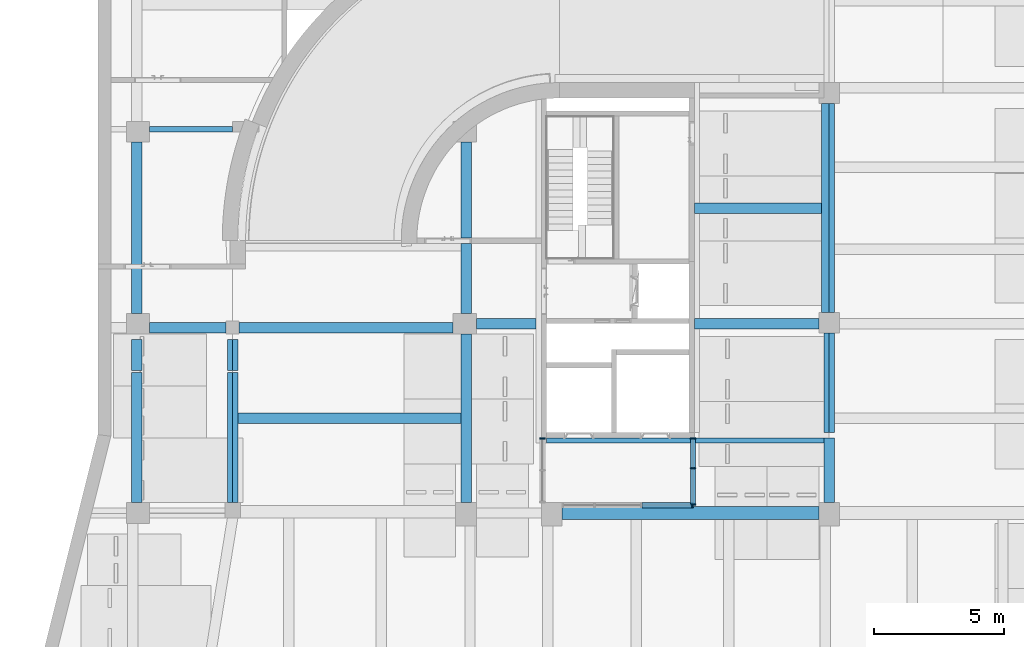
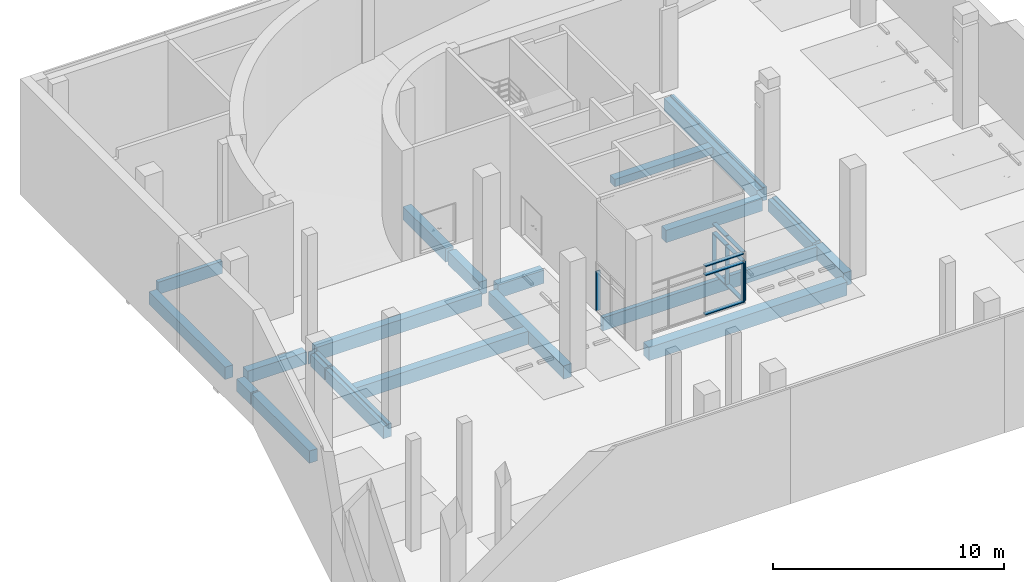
# One storey, part 3 of 29: 16 beams, 14 members, 3 elements without a shape of their own.
"""IFC2X3 building model written with IfcOpenShell, lengths in millimetres."""

from ifc_helpers import new_model, entity, si_unit, converted_unit, derived_unit, direction, frame, frame_2d, origin, origin_2d_with_axis, place, context, subcontext, project, spatial, polyline, rectangle, outline, extrude, source, transform, mapped, material, material_list, type_object, type_shapes, element, aggregate, save


model = new_model("IFC2X3")

# Units and contexts
model_context = context("Model", 3, precision=0.01, world=origin(), true_north=direction((6.123031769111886e-17, 1.0)))
body_context = subcontext(model_context, "Body", "Model", "MODEL_VIEW")
ifc_project = project(units=[si_unit("LENGTHUNIT", "METRE", prefix="MILLI"), si_unit("AREAUNIT", "SQUARE_METRE"), si_unit("VOLUMEUNIT", "CUBIC_METRE"), converted_unit("PLANEANGLEUNIT", "DEGREE", entity("IfcRatioMeasure", 0.017453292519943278), si_unit("PLANEANGLEUNIT", "RADIAN"), dimensions=[0, 0, 0, 0, 0, 0, 0]), si_unit("MASSUNIT", "GRAM", prefix="KILO"), derived_unit("MASSDENSITYUNIT", [(si_unit("MASSUNIT", "GRAM", prefix="KILO"), 1), (si_unit("LENGTHUNIT", "METRE"), -3)]), derived_unit("MOMENTOFINERTIAUNIT", [(si_unit("LENGTHUNIT", "METRE"), 4)]), si_unit("TIMEUNIT", "SECOND"), si_unit("FREQUENCYUNIT", "HERTZ"), si_unit("THERMODYNAMICTEMPERATUREUNIT", "DEGREE_CELSIUS"), derived_unit("THERMALTRANSMITTANCEUNIT", [(si_unit("MASSUNIT", "GRAM", prefix="KILO"), 1), (si_unit("THERMODYNAMICTEMPERATUREUNIT", "KELVIN"), -1), (si_unit("TIMEUNIT", "SECOND"), -3)]), derived_unit("VOLUMETRICFLOWRATEUNIT", [(si_unit("LENGTHUNIT", "METRE"), 3), (si_unit("TIMEUNIT", "SECOND"), -1)]), derived_unit("MASSFLOWRATEUNIT", [(si_unit("MASSUNIT", "GRAM", prefix="KILO"), 1), (si_unit("TIMEUNIT", "SECOND"), -1)]), derived_unit("ROTATIONALFREQUENCYUNIT", [(si_unit("TIMEUNIT", "SECOND"), -1)]), si_unit("ELECTRICCURRENTUNIT", "AMPERE"), si_unit("ELECTRICVOLTAGEUNIT", "VOLT"), si_unit("POWERUNIT", "WATT"), si_unit("FORCEUNIT", "NEWTON", prefix="KILO"), si_unit("ILLUMINANCEUNIT", "LUX"), si_unit("LUMINOUSFLUXUNIT", "LUMEN"), si_unit("LUMINOUSINTENSITYUNIT", "CANDELA"), derived_unit("USERDEFINED", [(si_unit("MASSUNIT", "GRAM", prefix="KILO"), -1), (si_unit("LENGTHUNIT", "METRE"), -2), (si_unit("TIMEUNIT", "SECOND"), 3), (si_unit("LUMINOUSFLUXUNIT", "LUMEN"), 1)]), derived_unit("SOUNDPOWERUNIT", [(si_unit("MASSUNIT", "GRAM", prefix="KILO"), 1), (si_unit("LENGTHUNIT", "METRE"), 2), (si_unit("TIMEUNIT", "SECOND"), -3)]), derived_unit("SOUNDPRESSUREUNIT", [(si_unit("MASSUNIT", "GRAM", prefix="KILO"), 1), (si_unit("LENGTHUNIT", "METRE"), -1), (si_unit("TIMEUNIT", "SECOND"), -2)]), derived_unit("LINEARVELOCITYUNIT", [(si_unit("LENGTHUNIT", "METRE"), 1), (si_unit("TIMEUNIT", "SECOND"), -1)]), si_unit("PRESSUREUNIT", "PASCAL"), derived_unit("USERDEFINED", [(si_unit("LENGTHUNIT", "METRE"), -2), (si_unit("MASSUNIT", "GRAM", prefix="KILO"), 1), (si_unit("TIMEUNIT", "SECOND"), -2)]), derived_unit("LINEARFORCEUNIT", [(si_unit("MASSUNIT", "GRAM", prefix="KILO"), 1), (si_unit("LENGTHUNIT", "METRE"), 1), (si_unit("TIMEUNIT", "SECOND"), -2), (si_unit("LENGTHUNIT", "METRE"), -1)]), derived_unit("PLANARFORCEUNIT", [(si_unit("MASSUNIT", "GRAM", prefix="KILO"), 1), (si_unit("LENGTHUNIT", "METRE"), 1), (si_unit("TIMEUNIT", "SECOND"), -2), (si_unit("LENGTHUNIT", "METRE"), -2)])], contexts=[model_context])

# Site, building, storey
site_placement = place(None, frame((-14167.972527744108, -657.2125860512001, 0.0)))
site = spatial("IfcSite", under=ifc_project, at=site_placement, Name="Default", CompositionType="ELEMENT")
building_placement = place(site_placement, origin())
building = spatial("IfcBuilding", under=site, at=building_placement, Name="Sample Building", CompositionType="ELEMENT")
storey_placement = place(building_placement, frame((0.0, 0.0, -6100.0)))
storey = spatial("IfcBuildingStorey", under=building, at=storey_placement, Name="지하1층", CompositionType="ELEMENT", Elevation=-6099.999999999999)

# Curtain wall, members
curtain_wall_type = type_object("IfcCurtainWallType", Name="커튼월:CW112-스테인리스 스틸 커튼월", PredefinedType="NOTDEFINED")
curtain_wall_1_placement = place(storey_placement, frame((0.0, 0.0, 6100.0)))
curtain_wall_1 = element("IfcCurtainWall", 1, at=curtain_wall_1_placement, inside=storey, type_object=curtain_wall_type, Name="커튼월:CW112-스테인리스 스틸 커튼월", ObjectType="커튼월:CW112-스테인리스 스틸 커튼월")
ifc_material_1 = material(Name="<Unnamed>")
member_type_1 = type_object("IfcMemberType", Name="직사각형 멀리언:CW200-직사각형 멀리언 50x200mm", PredefinedType="MULLION", material=ifc_material_1)
shared_shape_1 = source(origin(), body_context, "Body", "SweptSolid", [
    extrude(rectangle(XDim=200.0, YDim=50.0, at=origin_2d_with_axis()), frame((0.0, 0.0, -2100.0), z_axis=(0.0, 0.0, 1.0), x_axis=(0.0, -1.0, 0.0)), (0.0, 0.0, 1.0), 2100.0),
])
type_shapes(member_type_1, [shared_shape_1])
member_1_placement = place(curtain_wall_1_placement, frame((35917.97249113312, 14386.618274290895, -5900.0), z_axis=(0.0, 0.0, -1.0), x_axis=(0.0, -1.0, 0.0)))
member_1 = element("IfcMember", 2, at=member_1_placement, type_object=member_type_1, material=ifc_material_1, Name="직사각형 멀리언:CW200-직사각형 멀리언 50x200mm", ObjectType="직사각형 멀리언:CW200-직사각형 멀리언 50x200mm", context=body_context, shape_type="MappedRepresentation", body=[
    mapped(shared_shape_1, transform((0.0, 0.0, 0.0), scale=1.0)),
])
member_type_2 = type_object("IfcMemberType", Name="직사각형 멀리언:CW200-직사각형 멀리언 50x200mm", PredefinedType="MULLION", material=ifc_material_1)
shared_shape_2 = source(origin(), body_context, "Body", "SweptSolid", [
    extrude(rectangle(XDim=200.0, YDim=50.0, at=origin_2d_with_axis()), frame((-25.0, 0.0, -2100.0), z_axis=(0.0, 0.0, 1.0), x_axis=(0.0, -1.0, 0.0)), (0.0, 0.0, 1.0), 2099.9999999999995),
])
type_shapes(member_type_2, [shared_shape_2])
member_2_placement = place(curtain_wall_1_placement, frame((35917.97249113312, 15553.302947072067, -3800.0), z_axis=(0.0, 0.0, 1.0), x_axis=(0.0, 1.0, 0.0)))
member_2 = element("IfcMember", 3, at=member_2_placement, type_object=member_type_2, material=ifc_material_1, Name="직사각형 멀리언:CW200-직사각형 멀리언 50x200mm", ObjectType="직사각형 멀리언:CW200-직사각형 멀리언 50x200mm", context=body_context, shape_type="MappedRepresentation", body=[
    mapped(shared_shape_2, transform((0.0, 0.0, 0.0), scale=1.0)),
])

# Curtain wall, member
curtain_wall_2_placement = place(storey_placement, frame((0.0, 0.0, 6100.0)))
curtain_wall_2 = element("IfcCurtainWall", 4, at=curtain_wall_2_placement, inside=storey, type_object=curtain_wall_type, Name="커튼월:CW112-스테인리스 스틸 커튼월", ObjectType="커튼월:CW112-스테인리스 스틸 커튼월")
member_type_3 = type_object("IfcMemberType", Name="직사각형 멀리언:CW200-직사각형 멀리언 50x200mm", PredefinedType="MULLION", material=ifc_material_1)
shared_shape_3 = source(origin(), body_context, "Body", "SweptSolid", [
    extrude(rectangle(XDim=200.0, YDim=50.0, at=origin_2d_with_axis()), frame((-25.0, 0.0, -2100.0), z_axis=(0.0, 0.0, 1.0), x_axis=(0.0, -1.0, 0.0)), (0.0, 0.0, 1.0), 2100.0),
])
type_shapes(member_type_3, [shared_shape_3])
member_3_placement = place(curtain_wall_2_placement, frame((35917.97249113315, 12957.212586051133, -5900.0), z_axis=(0.0, 0.0, -1.0), x_axis=(1.0, 0.0, 0.0)))
member_3 = element("IfcMember", 5, at=member_3_placement, type_object=member_type_3, material=ifc_material_1, Name="직사각형 멀리언:CW200-직사각형 멀리언 50x200mm", ObjectType="직사각형 멀리언:CW200-직사각형 멀리언 50x200mm", context=body_context, shape_type="MappedRepresentation", body=[
    mapped(shared_shape_3, transform((0.0, 0.0, 0.0), scale=1.0)),
])

# Member
member_4_placement = place(curtain_wall_1_placement, frame((35917.972491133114, 12957.212586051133, -5900.0), z_axis=(0.0, 0.0, -1.0), x_axis=(0.0, -1.0, 0.0)))
member_4 = element("IfcMember", 6, at=member_4_placement, type_object=member_type_3, material=ifc_material_1, Name="직사각형 멀리언:CW200-직사각형 멀리언 50x200mm", ObjectType="직사각형 멀리언:CW200-직사각형 멀리언 50x200mm", context=body_context, shape_type="MappedRepresentation", body=[
    mapped(shared_shape_3, transform((0.0, 0.0, 0.0), scale=1.0)),
])

# Curtain wall, member
curtain_wall_3_placement = place(storey_placement, frame((0.0, 0.0, 6100.0)))
curtain_wall_3 = element("IfcCurtainWall", 7, at=curtain_wall_3_placement, inside=storey, type_object=curtain_wall_type, Name="커튼월:CW112-스테인리스 스틸 커튼월", ObjectType="커튼월:CW112-스테인리스 스틸 커튼월")
member_type_4 = type_object("IfcMemberType", Name="직사각형 멀리언:CW200-직사각형 멀리언 50x200mm", PredefinedType="MULLION", material=ifc_material_1)
shared_shape_4 = source(origin(), body_context, "Body", "SweptSolid", [
    extrude(rectangle(XDim=200.0, YDim=50.0, at=origin_2d_with_axis()), frame((-25.0, 0.0, -2100.0), z_axis=(0.0, 0.0, 1.0), x_axis=(0.0, -1.0, 0.0)), (0.0, 0.0, 1.0), 2099.999999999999),
])
type_shapes(member_type_4, [shared_shape_4])
member_5_placement = place(curtain_wall_3_placement, frame((30116.125814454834, 15553.302947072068, -3800.0), z_axis=(0.0, 0.0, 1.0), x_axis=(0.0, 1.0, 0.0)))
member_5 = element("IfcMember", 8, at=member_5_placement, type_object=member_type_4, material=ifc_material_1, Name="직사각형 멀리언:CW200-직사각형 멀리언 50x200mm", ObjectType="직사각형 멀리언:CW200-직사각형 멀리언 50x200mm", context=body_context, shape_type="MappedRepresentation", body=[
    mapped(shared_shape_4, transform((0.0, 0.0, 0.0), scale=1.0)),
])
aggregate(curtain_wall_3, [member_5])

# Member
member_type_5 = type_object("IfcMemberType", Name="직사각형 멀리언:CW200-직사각형 멀리언 50x200mm", PredefinedType="MULLION", material=ifc_material_1)
shared_shape_5 = source(origin(), body_context, "Body", "SweptSolid", [
    extrude(rectangle(XDim=200.0, YDim=50.0, at=origin_2d_with_axis()), frame((-25.0, 0.0, -1091.6846727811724), z_axis=(0.0, 0.0, 1.0), x_axis=(0.0, -1.0, 0.0)), (0.0, 0.0, 1.0), 1091.6846727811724),
])
type_shapes(member_type_5, [shared_shape_5])
member_6_placement = place(curtain_wall_1_placement, frame((35917.97249113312, 15503.302947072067, -5900.0), z_axis=(0.0, 1.0, 0.0), x_axis=(0.0, 0.0, -1.0)))
member_6 = element("IfcMember", 9, at=member_6_placement, type_object=member_type_5, material=ifc_material_1, Name="직사각형 멀리언:CW200-직사각형 멀리언 50x200mm", ObjectType="직사각형 멀리언:CW200-직사각형 멀리언 50x200mm", context=body_context, shape_type="MappedRepresentation", body=[
    mapped(shared_shape_5, transform((0.0, 0.0, 0.0), scale=1.0)),
])

member_type_6 = type_object("IfcMemberType", Name="직사각형 멀리언:CW200-직사각형 멀리언 50x200mm", PredefinedType="MULLION", material=ifc_material_1)
shared_shape_6 = source(origin(), body_context, "Body", "SweptSolid", [
    extrude(rectangle(XDim=200.0, YDim=50.0, at=origin_2d_with_axis()), frame((0.0, 0.0, -1091.6846727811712), z_axis=(0.0, 0.0, 1.0), x_axis=(0.0, -1.0, 0.0)), (0.0, 0.0, 1.0), 1091.6846727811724),
])
type_shapes(member_type_6, [shared_shape_6])
member_7_placement = place(curtain_wall_1_placement, frame((35917.97249113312, 14411.618274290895, -3800.0), z_axis=(0.0, -1.0, 0.0), x_axis=(0.0, 0.0, 1.0)))
member_7 = element("IfcMember", 10, at=member_7_placement, type_object=member_type_6, material=ifc_material_1, Name="직사각형 멀리언:CW200-직사각형 멀리언 50x200mm", ObjectType="직사각형 멀리언:CW200-직사각형 멀리언 50x200mm", context=body_context, shape_type="MappedRepresentation", body=[
    mapped(shared_shape_6, transform((0.0, 0.0, 0.0), scale=1.0)),
])

member_type_7 = type_object("IfcMemberType", Name="직사각형 멀리언:CW200-직사각형 멀리언 50x200mm", PredefinedType="MULLION", material=ifc_material_1)
shared_shape_7 = source(origin(), body_context, "Body", "SweptSolid", [
    extrude(rectangle(XDim=200.0, YDim=50.0, at=origin_2d_with_axis()), frame((-25.0, 0.0, -1091.6846727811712), z_axis=(0.0, 0.0, 1.0), x_axis=(0.0, -1.0, 0.0)), (0.0, 0.0, 1.0), 1091.6846727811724),
])
type_shapes(member_type_7, [shared_shape_7])
member_8_placement = place(curtain_wall_1_placement, frame((35917.97249113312, 14411.618274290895, -3300.0), z_axis=(0.0, -1.0, 0.0), x_axis=(0.0, 0.0, 1.0)))
member_8 = element("IfcMember", 11, at=member_8_placement, type_object=member_type_7, material=ifc_material_1, Name="직사각형 멀리언:CW200-직사각형 멀리언 50x200mm", ObjectType="직사각형 멀리언:CW200-직사각형 멀리언 50x200mm", context=body_context, shape_type="MappedRepresentation", body=[
    mapped(shared_shape_7, transform((0.0, 0.0, 0.0), scale=1.0)),
])

member_type_8 = type_object("IfcMemberType", Name="직사각형 멀리언:CW200-직사각형 멀리언 50x200mm", PredefinedType="MULLION", material=ifc_material_1)
shared_shape_8 = source(origin(), body_context, "Body", "SweptSolid", [
    extrude(rectangle(XDim=200.0, YDim=50.0, at=origin_2d_with_axis()), frame((-25.0, 0.0, -1925.0), z_axis=(0.0, 0.0, 1.0), x_axis=(0.0, -1.0, 0.0)), (0.0, 0.0, 1.0), 1925.0000000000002),
])
type_shapes(member_type_8, [shared_shape_8])
member_9_placement = place(curtain_wall_2_placement, frame((35867.972491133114, 12957.212586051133, -3300.0), z_axis=(1.0, 0.0, 0.0), x_axis=(0.0, 0.0, 1.0)))
member_9 = element("IfcMember", 12, at=member_9_placement, type_object=member_type_8, material=ifc_material_1, Name="직사각형 멀리언:CW200-직사각형 멀리언 50x200mm", ObjectType="직사각형 멀리언:CW200-직사각형 멀리언 50x200mm", context=body_context, shape_type="MappedRepresentation", body=[
    mapped(shared_shape_8, transform((0.0, 0.0, 0.0), scale=1.0)),
])

member_type_9 = type_object("IfcMemberType", Name="직사각형 멀리언:CW200-직사각형 멀리언 50x200mm", PredefinedType="MULLION", material=ifc_material_1)
shared_shape_9 = source(origin(), body_context, "Body", "SweptSolid", [
    extrude(rectangle(XDim=200.0, YDim=50.0, at=origin_2d_with_axis()), frame((-25.0, 0.0, -1925.0), z_axis=(0.0, 0.0, 1.0), x_axis=(0.0, -1.0, 0.0)), (0.0, 0.0, 1.0), 1924.9999999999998),
])
type_shapes(member_type_9, [shared_shape_9])
member_10_placement = place(curtain_wall_2_placement, frame((33942.97249113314, 12957.21258605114, -5900.0), z_axis=(-1.0, 0.0, 0.0), x_axis=(0.0, 0.0, -1.0)))
member_10 = element("IfcMember", 13, at=member_10_placement, type_object=member_type_9, material=ifc_material_1, Name="직사각형 멀리언:CW200-직사각형 멀리언 50x200mm", ObjectType="직사각형 멀리언:CW200-직사각형 멀리언 50x200mm", context=body_context, shape_type="MappedRepresentation", body=[
    mapped(shared_shape_9, transform((0.0, 0.0, 0.0), scale=1.0)),
])

member_type_10 = type_object("IfcMemberType", Name="직사각형 멀리언:CW200-직사각형 멀리언 50x200mm", PredefinedType="MULLION", material=ifc_material_1)
shared_shape_10 = source(origin(), body_context, "Body", "SweptSolid", [
    extrude(rectangle(XDim=200.0, YDim=50.0, at=origin_2d_with_axis()), frame((0.0, 0.0, -1925.0), z_axis=(0.0, 0.0, 1.0), x_axis=(0.0, -1.0, 0.0)), (0.0, 0.0, 1.0), 1925.0000000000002),
])
type_shapes(member_type_10, [shared_shape_10])
member_11_placement = place(curtain_wall_2_placement, frame((35867.972491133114, 12957.212586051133, -3800.0), z_axis=(1.0, 0.0, 0.0), x_axis=(0.0, 0.0, 1.0)))
member_11 = element("IfcMember", 14, at=member_11_placement, type_object=member_type_10, material=ifc_material_1, Name="직사각형 멀리언:CW200-직사각형 멀리언 50x200mm", ObjectType="직사각형 멀리언:CW200-직사각형 멀리언 50x200mm", context=body_context, shape_type="MappedRepresentation", body=[
    mapped(shared_shape_10, transform((0.0, 0.0, 0.0), scale=1.0)),
])

aggregate(curtain_wall_2, [member_9, member_3, member_10, member_11])

member_type_11 = type_object("IfcMemberType", Name="직사각형 멀리언:CW200-직사각형 멀리언 50x200mm", PredefinedType="MULLION", material=ifc_material_1)
shared_shape_11 = source(origin(), body_context, "Body", "SweptSolid", [
    extrude(rectangle(XDim=200.0, YDim=50.0, at=origin_2d_with_axis()), frame((-25.0, 0.0, -1354.405688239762), z_axis=(0.0, 0.0, 1.0), x_axis=(0.0, -1.0, 0.0)), (0.0, 0.0, 1.0), 1354.4056882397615),
])
type_shapes(member_type_11, [shared_shape_11])
member_12_placement = place(curtain_wall_1_placement, frame((35917.972491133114, 13007.212586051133, -3300.0), z_axis=(0.0, -1.0, 0.0), x_axis=(0.0, 0.0, 1.0)))
member_12 = element("IfcMember", 15, at=member_12_placement, type_object=member_type_11, material=ifc_material_1, Name="직사각형 멀리언:CW200-직사각형 멀리언 50x200mm", ObjectType="직사각형 멀리언:CW200-직사각형 멀리언 50x200mm", context=body_context, shape_type="MappedRepresentation", body=[
    mapped(shared_shape_11, transform((0.0, 0.0, 0.0), scale=1.0)),
])

member_type_12 = type_object("IfcMemberType", Name="직사각형 멀리언:CW200-직사각형 멀리언 50x200mm", PredefinedType="MULLION", material=ifc_material_1)
shared_shape_12 = source(origin(), body_context, "Body", "SweptSolid", [
    extrude(rectangle(XDim=200.0, YDim=50.0, at=origin_2d_with_axis()), frame((-25.0, 0.0, -1354.4056882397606), z_axis=(0.0, 0.0, 1.0), x_axis=(0.0, -1.0, 0.0)), (0.0, 0.0, 1.0), 1354.4056882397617),
])
type_shapes(member_type_12, [shared_shape_12])
member_13_placement = place(curtain_wall_1_placement, frame((35917.97249113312, 14361.618274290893, -5900.0), z_axis=(0.0, 1.0, 0.0), x_axis=(0.0, 0.0, -1.0)))
member_13 = element("IfcMember", 16, at=member_13_placement, type_object=member_type_12, material=ifc_material_1, Name="직사각형 멀리언:CW200-직사각형 멀리언 50x200mm", ObjectType="직사각형 멀리언:CW200-직사각형 멀리언 50x200mm", context=body_context, shape_type="MappedRepresentation", body=[
    mapped(shared_shape_12, transform((0.0, 0.0, 0.0), scale=1.0)),
])

member_type_13 = type_object("IfcMemberType", Name="직사각형 멀리언:CW200-직사각형 멀리언 50x200mm", PredefinedType="MULLION", material=ifc_material_1)
shared_shape_13 = source(origin(), body_context, "Body", "SweptSolid", [
    extrude(rectangle(XDim=200.0, YDim=50.0, at=origin_2d_with_axis()), frame((0.0, 0.0, -1354.4056882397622), z_axis=(0.0, 0.0, 1.0), x_axis=(0.0, -1.0, 0.0)), (0.0, 0.0, 1.0), 1354.4056882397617),
])
type_shapes(member_type_13, [shared_shape_13])
member_14_placement = place(curtain_wall_1_placement, frame((35917.972491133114, 13007.212586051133, -3800.0), z_axis=(0.0, -1.0, 0.0), x_axis=(0.0, 0.0, 1.0)))
member_14 = element("IfcMember", 17, at=member_14_placement, type_object=member_type_13, material=ifc_material_1, Name="직사각형 멀리언:CW200-직사각형 멀리언 50x200mm", ObjectType="직사각형 멀리언:CW200-직사각형 멀리언 50x200mm", context=body_context, shape_type="MappedRepresentation", body=[
    mapped(shared_shape_13, transform((0.0, 0.0, 0.0), scale=1.0)),
])

aggregate(curtain_wall_1, [member_12, member_6, member_4, member_2, member_7, member_8, member_13, member_14, member_1])

# Beams
ifc_material_2 = material(Name="KBIMS-콘크리트")
beam_type_1 = type_object("IfcBeamType", Name="BM111-철근콘크리트구조 보:BM110-철근 콘크리트구조 보_400 x 850_B1-1G3", PredefinedType="NOTDEFINED")
beam_1_placement = place(storey_placement, frame((14517.955105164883, 19807.21261703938, 0.0)))
element("IfcBeam", 18, at=beam_1_placement, inside=storey, type_object=beam_type_1, material=ifc_material_2, Name="BM111-철근콘크리트구조 보:BM110-철근 콘크리트구조 보_400 x 850_B1-1G3", ObjectType="BM111-철근콘크리트구조 보:BM110-철근 콘크리트구조 보_400 x 850_B1-1G3", context=body_context, shape_type="SweptSolid", body=[
    extrude(rectangle(XDim=650.0000000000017, YDim=400.0000000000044, at=frame_2d((1.0800249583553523e-12, 0.0), x_axis=(1.0, 0.0))), frame((450.0, 0.0, -525.0), z_axis=(1.0, 0.0, 0.0), x_axis=(0.0, 0.0, -1.0)), (0.0, 0.0, 1.0), 2949.9913436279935),
])
beam_2_placement = place(storey_placement, frame((27217.962965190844, 19957.212617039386, 0.0)))
element("IfcBeam", 19, at=beam_2_placement, inside=storey, type_object=beam_type_1, material=ifc_material_2, Name="BM111-철근콘크리트구조 보:BM110-철근 콘크리트구조 보_400 x 850_B1-1G3", ObjectType="BM111-철근콘크리트구조 보:BM110-철근 콘크리트구조 보_400 x 850_B1-1G3", context=body_context, shape_type="SweptSolid", body=[
    extrude(rectangle(XDim=700.0000000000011, YDim=400.0000000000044, at=origin_2d_with_axis()), frame((349.99217658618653, 0.0, -500.0), z_axis=(1.0, 0.0, 0.0), x_axis=(0.0, 0.0, -1.0)), (0.0, 0.0, 1.0), 2300.007823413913),
])
beam_3_placement = place(storey_placement, frame((14517.955086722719, 27557.212617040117, 0.0)))
element("IfcBeam", 20, at=beam_3_placement, inside=storey, type_object=beam_type_1, material=ifc_material_2, Name="BM111-철근콘크리트구조 보:BM110-철근 콘크리트구조 보_400 x 850_B1-1G3", ObjectType="BM111-철근콘크리트구조 보:BM110-철근 콘크리트구조 보_400 x 850_B1-1G3", context=body_context, shape_type="SweptSolid", body=[
    extrude(rectangle(XDim=650.0000000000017, YDim=199.99969094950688, at=frame_2d((1.0800249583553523e-12, 2.1671553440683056e-12), x_axis=(1.0, 0.0))), frame((450.0, -100.00015452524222, -525.0), z_axis=(1.0, 0.0, 0.0), x_axis=(0.0, 0.0, -1.0)), (0.0, 0.0, 1.0), 3199.9913620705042),
])
beam_type_2 = type_object("IfcBeamType", Name="BM111-철근콘크리트구조 보:BM110-철근 콘크리트구조 보_400 x 850_B1-1G1", PredefinedType="NOTDEFINED")
beam_4_placement = place(storey_placement, frame((27117.955141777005, 19807.21261703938, 0.0), z_axis=(0.0, 0.0, 1.0), x_axis=(-1.0, 0.0, 0.0)))
element("IfcBeam", 21, at=beam_4_placement, inside=storey, type_object=beam_type_2, material=ifc_material_2, Name="BM111-철근콘크리트구조 보:BM110-철근 콘크리트구조 보_400 x 850_B1-1G1", ObjectType="BM111-철근콘크리트구조 보:BM110-철근 콘크리트구조 보_400 x 850_B1-1G1", context=body_context, shape_type="SweptSolid", body=[
    extrude(rectangle(XDim=700.0000000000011, YDim=400.0000000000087, at=frame_2d((0.0, -2.1600499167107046e-12), x_axis=(1.0, 0.0))), frame((450.0, 0.0, -500.0), z_axis=(1.0, 0.0, 0.0), x_axis=(0.0, 0.0, -1.0)), (0.0, 0.0, 1.0), 8250.00869298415),
])
beam_type_3 = type_object("IfcBeamType", Name="BM111-철근콘크리트구조 보:BM110-철근 콘크리트구조 보_500 x 850_B1-1G5", PredefinedType="NOTDEFINED")
beam_5_placement = place(storey_placement, frame((30871.281488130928, 12657.212617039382, 0.0)))
element("IfcBeam", 22, at=beam_5_placement, inside=storey, type_object=beam_type_3, material=ifc_material_2, Name="BM111-철근콘크리트구조 보:BM110-철근 콘크리트구조 보_500 x 850_B1-1G5", ObjectType="BM111-철근콘크리트구조 보:BM110-철근 콘크리트구조 보_500 x 850_B1-1G5", context=body_context, shape_type="SweptSolid", body=[
    extrude(rectangle(XDim=700.0000000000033, YDim=500.00000000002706, at=frame_2d((-1.0800249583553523e-12, -1.624300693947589e-11), x_axis=(1.0, 0.0))), frame((0.0, 0.0, -500.0), z_axis=(1.0, 0.0, 0.0), x_axis=(0.0, 0.0, -1.0)), (0.0, 0.0, 1.0), 9896.67354646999),
])
beam_6_placement = place(storey_placement, frame((41117.96296519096, 28457.21262011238, 0.0), z_axis=(0.0, 0.0, 1.0), x_axis=(0.0, -1.0, 0.0)))
element("IfcBeam", 23, at=beam_6_placement, inside=storey, type_object=beam_type_3, material=ifc_material_2, Name="BM111-철근콘크리트구조 보:BM110-철근 콘크리트구조 보_500 x 850_B1-1G5", ObjectType="BM111-철근콘크리트구조 보:BM110-철근 콘크리트구조 보_500 x 850_B1-1G5", context=body_context, shape_type="SweptSolid", body=[
    extrude(outline(polyline([(-200.0, -266.67244978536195), (450.0, -266.67244978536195), (450.0, 233.327550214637), (-250.0, 233.327550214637), (-250.0, 33.34489957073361), (-200.0, 33.344899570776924), (-200.0, -266.67244978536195)])), frame((0.0, 16.672449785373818, -400.0), z_axis=(1.0, 0.0, 0.0), x_axis=(0.0, 0.0, -1.0)), (0.0, 0.0, 1.0), 8062.500078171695),
])
ifc_material_list = material_list([ifc_material_2, ifc_material_2])
beam_type_4 = type_object("IfcBeamType", Name="BM111-철근콘크리트구조 보:BM110-철근 콘크리트구조 보_400 x 850_B1-1G2", PredefinedType="BEAM", material=ifc_material_list)
beam_7_placement = place(storey_placement, frame((40775.255122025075, 19957.212617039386, 0.0), z_axis=(0.0, 0.0, 1.0), x_axis=(-1.0, 0.0, 0.0)))
element("IfcBeam", 24, at=beam_7_placement, inside=storey, type_object=beam_type_4, material=ifc_material_2, Name="BM111-철근콘크리트구조 보:BM110-철근 콘크리트구조 보_400 x 850_B1-1G2", ObjectType="BM111-철근콘크리트구조 보:BM110-철근 콘크리트구조 보_400 x 850_B1-1G2", context=body_context, shape_type="SweptSolid", body=[
    extrude(rectangle(XDim=650.0000000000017, YDim=400.0000000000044, at=frame_2d((1.0800249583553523e-12, 0.0), x_axis=(1.0, 0.0))), frame((7.299980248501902, 0.0, -525.0), z_axis=(1.0, 0.0, 0.0), x_axis=(0.0, 0.0, -1.0)), (0.0, 0.0, 1.0), 4799.98265064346),
])
beam_8_placement = place(storey_placement, frame((14467.955105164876, 27557.21261704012, 0.0), z_axis=(0.0, 0.0, 1.0), x_axis=(0.0, -1.0, 0.0)))
element("IfcBeam", 25, at=beam_8_placement, inside=storey, type_object=beam_type_4, material=ifc_material_2, Name="BM111-철근콘크리트구조 보:BM110-철근 콘크리트구조 보_400 x 850_B1-1G2", ObjectType="BM111-철근콘크리트구조 보:BM110-철근 콘크리트구조 보_400 x 850_B1-1G2", context=body_context, shape_type="SweptSolid", body=[
    extrude(rectangle(XDim=650.0000000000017, YDim=400.00000000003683, at=frame_2d((1.0800249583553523e-12, -2.489741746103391e-11), x_axis=(1.0, 0.0))), frame((600.0, 0.0, -525.0), z_axis=(1.0, 0.0, 0.0), x_axis=(0.0, 0.0, -1.0)), (0.0, 0.0, 1.0), 6600.0000000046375),
])
beam_type_5 = type_object("IfcBeamType", Name="BM111-철근콘크리트구조 보:BM110-철근 콘크리트구조 보_400 x 850_B1-1G4", PredefinedType="NOTDEFINED")
beam_9_placement = place(storey_placement, frame((27167.955141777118, 12707.212895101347, 0.0), z_axis=(0.0, 0.0, 1.0), x_axis=(0.0, 1.0, 0.0)))
element("IfcBeam", 26, at=beam_9_placement, inside=storey, type_object=beam_type_5, material=ifc_material_2, Name="BM111-철근콘크리트구조 보:BM110-철근 콘크리트구조 보_400 x 850_B1-1G4", ObjectType="BM111-철근콘크리트구조 보:BM110-철근 콘크리트구조 보_400 x 850_B1-1G4", context=body_context, shape_type="SweptSolid", body=[
    extrude(rectangle(XDim=700.0000000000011, YDim=400.0000000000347, at=frame_2d((0.0, -2.5991653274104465e-11), x_axis=(1.0, 0.0))), frame((349.9997219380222, 0.0, -500.0), z_axis=(1.0, 0.0, 0.0), x_axis=(0.0, 0.0, -1.0)), (0.0, 0.0, 1.0), 6499.9999999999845),
])
beam_type_6 = type_object("IfcBeamType", Name="BM111-철근콘크리트구조 보:BM110-철근 콘크리트구조 보_400 x 850_B1-1B1", PredefinedType="BEAM", material=ifc_material_2)
beam_10_placement = place(storey_placement, frame((18167.946448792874, 16307.212617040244, 0.0)))
element("IfcBeam", 27, at=beam_10_placement, inside=storey, type_object=beam_type_6, material=ifc_material_2, Name="BM111-철근콘크리트구조 보:BM110-철근 콘크리트구조 보_400 x 850_B1-1B1", ObjectType="BM111-철근콘크리트구조 보:BM110-철근 콘크리트구조 보_400 x 850_B1-1B1", context=body_context, shape_type="SweptSolid", body=[
    extrude(rectangle(XDim=700.0000000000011, YDim=400.0000000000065, at=frame_2d((0.0, -3.254285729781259e-12), x_axis=(1.0, 0.0))), frame((200.0, 0.0, -500.0), z_axis=(1.0, 0.0, 0.0), x_axis=(0.0, 0.0, -1.0)), (0.0, 0.0, 1.0), 8600.008692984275),
])
beam_type_7 = type_object("IfcBeamType", Name="BM111-철근콘크리트구조 보:BM110-철근 콘크리트구조 보_400 x 850_B1-1G2", PredefinedType="BEAM", material=ifc_material_2)
shared_shape_14 = source(origin(), body_context, "Body", "SweptSolid", [
    extrude(rectangle(XDim=650.0000000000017, YDim=400.0000000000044, at=frame_2d((0.0, -1.6200374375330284e-12), x_axis=(0.0, 1.0))), frame((14467.955105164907, 18157.21230798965, -6625.0), z_axis=(0.0, 1.0, 0.0), x_axis=(-1.0, 0.0, 0.0)), (0.0, 0.0, 1.0), 1200.0000000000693),
    extrude(rectangle(XDim=650.0000000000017, YDim=400.0000000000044, at=frame_2d((0.0, -1.6200374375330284e-12), x_axis=(0.0, 1.0))), frame((14467.955105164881, 13057.21261703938, -6625.0), z_axis=(0.0, 1.0, 0.0), x_axis=(-1.0, 0.0, 0.0)), (0.0, 0.0, 1.0), 5009.999690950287),
])
type_shapes(beam_type_7, [shared_shape_14])
beam_11_placement = place(storey_placement, frame((0.0, 0.0, 6100.0)))
element("IfcBeam", 28, at=beam_11_placement, inside=storey, type_object=beam_type_7, material=ifc_material_2, Name="BM111-철근콘크리트구조 보:BM110-철근 콘크리트구조 보_400 x 850_B1-1G2", ObjectType="BM111-철근콘크리트구조 보:BM110-철근 콘크리트구조 보_400 x 850_B1-1G2", context=body_context, shape_type="MappedRepresentation", body=[
    mapped(shared_shape_14, transform((0.0, 0.0, 0.0), scale=1.0)),
])
beam_type_8 = type_object("IfcBeamType", Name="BM111-철근콘크리트구조 보:BM110-철근 콘크리트구조 보_400 x 850_B1-1G4", PredefinedType="BEAM", material=ifc_material_2)
shared_shape_15 = source(origin(), body_context, "Body", "SweptSolid", [
    extrude(outline(polyline([(-199.9942168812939, -450.0), (200.00578311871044, -450.0), (200.00578311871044, 200.0), (-0.011566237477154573, 200.0), (-0.011566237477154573, 250.0), (-199.9942168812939, 250.0), (-199.9942168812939, -450.0)])), frame((41167.96874830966, 15757.212586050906, -6500.0), z_axis=(0.0, 1.0, 0.0), x_axis=(-1.0, 0.0, 0.0)), (0.0, 0.0, 1.0), 3837.499955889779),
    extrude(rectangle(XDim=700.0000000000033, YDim=400.0000000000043, at=frame_2d((4.334310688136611e-12, 0.0), x_axis=(0.0, 1.0))), frame((41167.962965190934, 13057.212617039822, -6600.0), z_axis=(0.0, 1.0, 0.0), x_axis=(-1.0, 0.0, 0.0)), (0.0, 0.0, 1.0), 2499.9999690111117),
])
type_shapes(beam_type_8, [shared_shape_15])
beam_12_placement = place(storey_placement, frame((0.0, 0.0, 6100.0)))
element("IfcBeam", 29, at=beam_12_placement, inside=storey, type_object=beam_type_8, material=ifc_material_2, Name="BM111-철근콘크리트구조 보:BM110-철근 콘크리트구조 보_400 x 850_B1-1G4", ObjectType="BM111-철근콘크리트구조 보:BM110-철근 콘크리트구조 보_400 x 850_B1-1G4", context=body_context, shape_type="MappedRepresentation", body=[
    mapped(shared_shape_15, transform((0.0, 0.0, 0.0), scale=1.0)),
])
beam_type_9 = type_object("IfcBeamType", Name="BM111-철근콘크리트구조 보:BM110-철근 콘크리트구조 보_400 x 850_B1-1G4", PredefinedType="BEAM", material=ifc_material_2)
shared_shape_16 = source(origin(), body_context, "Body", "SweptSolid", [
    extrude(rectangle(XDim=700.0000000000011, YDim=400.0000000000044, at=frame_2d((0.0, 0.0), x_axis=(0.0, 1.0))), frame((27167.955141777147, 23057.21230798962, -6600.0), z_axis=(0.0, -1.0, 0.0), x_axis=(-1.0, 0.0, 0.0)), (0.0, 0.0, 1.0), 2699.999690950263),
    extrude(rectangle(XDim=700.0000000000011, YDim=400.0000000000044, at=frame_2d((0.0, 0.0), x_axis=(0.0, 1.0))), frame((27167.95514177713, 26957.212617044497, -6600.0), z_axis=(0.0, -1.0, 0.0), x_axis=(-1.0, 0.0, 0.0)), (0.0, 0.0, 1.0), 3700.000309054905),
])
type_shapes(beam_type_9, [shared_shape_16])
beam_13_placement = place(storey_placement, frame((0.0, 0.0, 6100.0)))
element("IfcBeam", 30, at=beam_13_placement, inside=storey, type_object=beam_type_9, material=ifc_material_2, Name="BM111-철근콘크리트구조 보:BM110-철근 콘크리트구조 보_400 x 850_B1-1G4", ObjectType="BM111-철근콘크리트구조 보:BM110-철근 콘크리트구조 보_400 x 850_B1-1G4", context=body_context, shape_type="MappedRepresentation", body=[
    mapped(shared_shape_16, transform((0.0, 0.0, 0.0), scale=1.0)),
])
beam_type_10 = type_object("IfcBeamType", Name="BM111-철근콘크리트구조 보:BM110-철근 콘크리트구조 보_400 x 600_B1B4", PredefinedType="NOTDEFINED")
beam_14_placement = place(storey_placement, frame((41117.96296519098, 24407.212617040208, 0.0), z_axis=(0.0, 0.0, 1.0), x_axis=(-1.0, 0.0, 0.0)))
element("IfcBeam", 31, at=beam_14_placement, inside=storey, type_object=beam_type_10, material=ifc_material_2, Name="BM111-철근콘크리트구조 보:BM110-철근 콘크리트구조 보_400 x 600_B1B4", ObjectType="BM111-철근콘크리트구조 보:BM110-철근 콘크리트구조 보_400 x 600_B1B4", context=body_context, shape_type="SweptSolid", body=[
    extrude(rectangle(XDim=400.00000000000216, YDim=400.0000000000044, at=frame_2d((1.0942358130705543e-12, 0.0), x_axis=(1.0, 0.0))), frame((250.0, 0.0, -400.0), z_axis=(1.0, 0.0, 0.0), x_axis=(0.0, 0.0, -1.0)), (0.0, 0.0, 1.0), 4899.990474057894),
])
beam_type_11 = type_object("IfcBeamType", Name="BM111-철근콘크리트구조 보:BM110-철근 콘크리트구조 보_400 x 850_B1-1G4", PredefinedType="BEAM", material=ifc_material_2)
shared_shape_17 = source(origin(), body_context, "Body", "SweptSolid", [
    extrude(outline(polyline([(-199.9887114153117, -450.0), (200.01128858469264, -450.0), (200.01128858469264, 200.0), (-0.0225771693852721, 200.0), (-0.0225771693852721, 250.0), (-199.9887114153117, 250.0), (-199.9887114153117, -450.0)])), frame((18167.957737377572, 19557.212307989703, -6500.0), z_axis=(0.0, 1.0, 0.0), x_axis=(-1.0, 0.0, 0.0)), (0.0, 0.0, 1.0), 37.50023395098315),
    extrude(outline(polyline([(-199.9887114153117, -450.0), (200.01128858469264, -450.0), (200.01128858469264, 200.0), (-0.0225771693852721, 200.0), (-0.0225771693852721, 250.0), (-199.98871141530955, 250.0), (-199.9887114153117, -450.0)])), frame((18167.957737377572, 13057.21256435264, -6500.0), z_axis=(0.0, 1.0, 0.0), x_axis=(-1.0, 0.0, 0.0)), (0.0, 0.0, 1.0), 5009.999743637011),
    extrude(outline(polyline([(-199.9887114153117, -450.0), (200.01128858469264, -450.0), (200.01128858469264, 200.0), (-0.0225771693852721, 200.0), (-0.0225771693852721, 250.0), (-199.9887114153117, 250.0), (-199.9887114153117, -450.0)])), frame((18167.957737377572, 18157.212307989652, -6500.0), z_axis=(0.0, 1.0, 0.0), x_axis=(-1.0, 0.0, 0.0)), (0.0, 0.0, 1.0), 1200.0000000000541),
])
type_shapes(beam_type_11, [shared_shape_17])
beam_15_placement = place(storey_placement, frame((0.0, 0.0, 6100.0)))
element("IfcBeam", 32, at=beam_15_placement, inside=storey, type_object=beam_type_11, material=ifc_material_2, Name="BM111-철근콘크리트구조 보:BM110-철근 콘크리트구조 보_400 x 850_B1-1G4", ObjectType="BM111-철근콘크리트구조 보:BM110-철근 콘크리트구조 보_400 x 850_B1-1G4", context=body_context, shape_type="MappedRepresentation", body=[
    mapped(shared_shape_17, transform((0.0, 0.0, 0.0), scale=1.0)),
])
beam_type_12 = type_object("IfcBeamType", Name="BM111-철근콘크리트구조 보:BM110-철근 콘크리트구조 보_400 x 850_-1WG1", PredefinedType="NOTDEFINED")
beam_16_placement = place(storey_placement, frame((30067.962965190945, 15557.203887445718, 0.0)))
element("IfcBeam", 33, at=beam_16_placement, inside=storey, type_object=beam_type_12, material=ifc_material_2, Name="BM111-철근콘크리트구조 보:BM110-철근 콘크리트구조 보_400 x 850_-1WG1", ObjectType="BM111-철근콘크리트구조 보:BM110-철근 콘크리트구조 보_400 x 850_-1WG1", context=body_context, shape_type="SweptSolid", body=[
    extrude(rectangle(XDim=700.0, YDim=200.00842054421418, at=frame_2d((-5.400124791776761e-13, 6.951527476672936e-05), x_axis=(1.0, 0.0))), frame((200.0, -99.99572021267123, -500.0), z_axis=(1.0, 0.0, 0.0), x_axis=(0.0, 0.0, -1.0)), (0.0, 0.0, 1.0), 10700.000000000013),
])

save(model, "model.ifc")
